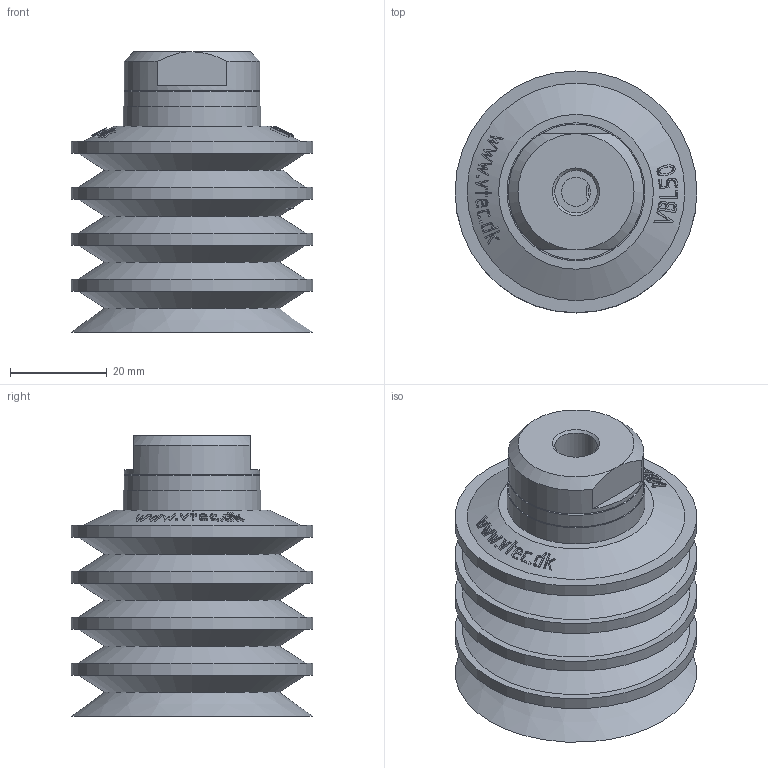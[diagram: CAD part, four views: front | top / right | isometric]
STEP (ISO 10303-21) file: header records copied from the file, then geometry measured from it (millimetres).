
FILE_DESCRIPTION( ( 'STEP AP203' ), '1' );
FILE_NAME( 'C:/撲啗紫賊-02/3D-蘋驍煎斜/Vacuum Pad/VBL series/VBL50-18F.stp', '2006-04-24T11:53:04', ( ' ' ), ( ' ' ), 'XStep 1.0', ' ', ' ' );
FILE_SCHEMA( ( 'CONFIG_CONTROL_DESIGN) ( )' ) );
Length unit declared in the file: metre
Products named in the file (3): Assem1; 1; 2
Bounding box: 50 x 50 x 58 mm (x, y, z)
Volume: 50396.5 mm3; surface area: 53158.9 mm2
Topology: 4 solids, 4 shells, 450 faces, 1046 edges, 684 vertices
Faces by surface type: bspline 264, cone 94, plane 56, cylinder 36
Full cylindrical faces by diameter (mm): 6 x2, 8.8 x2, 9 x2, 10 x2, 11 x2, 11.8 x6, 12.3 x2, 14.5 x2, 15 x2, 28 x4, 28.516 x2, 50 x8
Entity records: 12170 total; most frequent: CARTESIAN_POINT 8042, ORIENTED_EDGE 950, EDGE_CURVE 475, DIRECTION 420, VERTEX_POINT 339, B_SPLINE_CURVE_WITH_KNOTS 318, EDGE_LOOP 314, FACE_OUTER_BOUND 245
